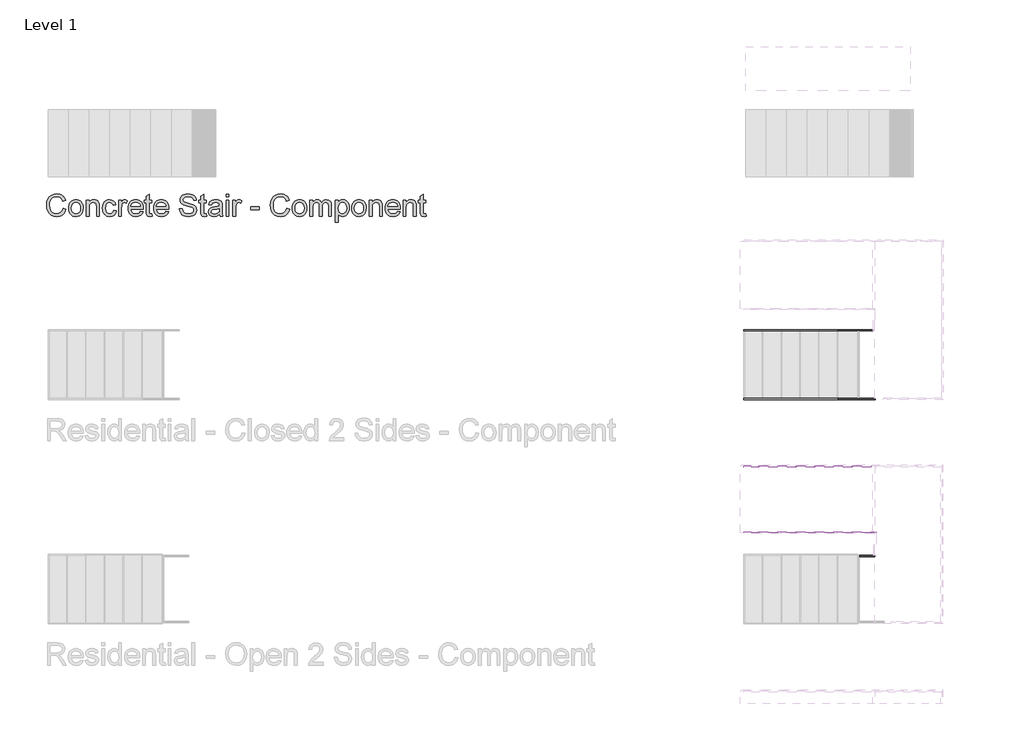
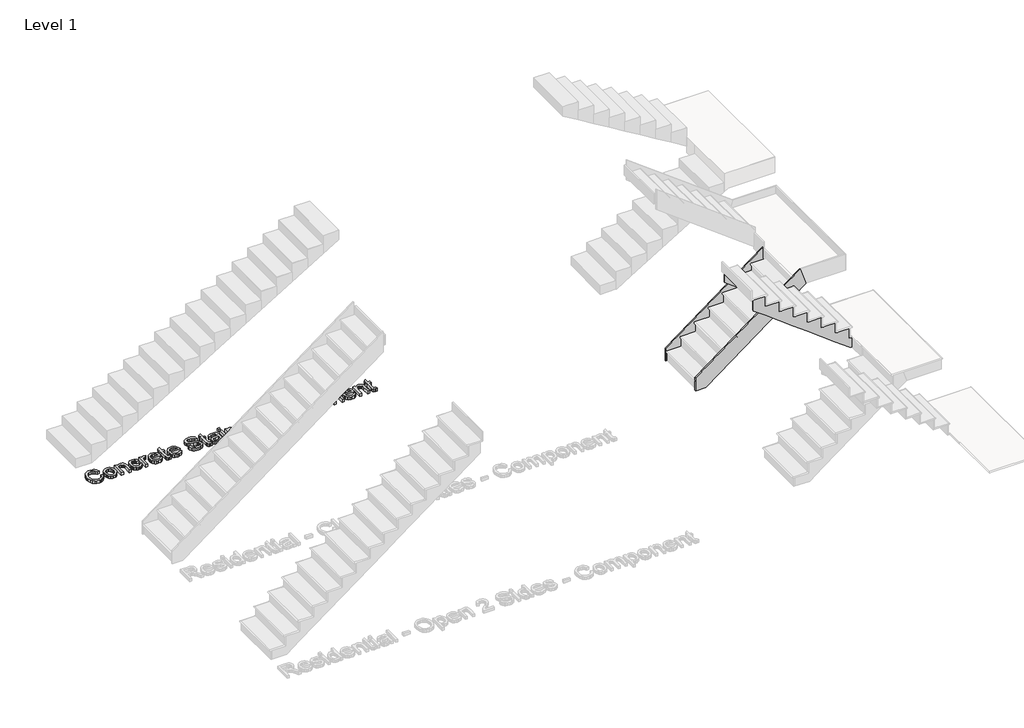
# One storey, part 18 of 26: 5 members, 1 proxy.
"""IFC4 building model written with IfcOpenShell, lengths in millimetres."""

import ifcopenshell
import ifcopenshell.guid

model = None  # the IFC model being written
_history = None  # IfcOwnerHistory: only IFC2X3 demands one
_inside = {}  # id of a spatial element -> (the spatial element, [elements in it])
_under = {}  # id of a project, library or spatial element -> (it, [spatial elements below it])
_declared = {}  # id of a project -> (the project, [libraries it declares])
_typed = {}  # id of a type object -> (the type object, [elements of that type])
_made_of = {}  # id of a material, layer set ... -> (it, [elements and type objects made of it])


def new_model(schema):
    """Start an empty IFC model of exactly this schema.

    Asked for "IFC4X3", IfcOpenShell would pick the latest addendum, in which some entities
    have other attributes; the version numbers below select the first issue.
    IFC2X3 requires an IfcOwnerHistory on every rooted entity: one is made here for all.
    """
    global model, _history
    if schema == "IFC4X3":
        model = ifcopenshell.file(schema_version=(4, 3, 0, 0))
    else:
        model = ifcopenshell.file(schema=schema)
    _inside.clear()
    _under.clear()
    _declared.clear()
    _typed.clear()
    _made_of.clear()
    _history = None
    if model.schema == "IFC2X3":
        org = make("IfcOrganization", Name="unknown")
        user = make(
            "IfcPersonAndOrganization",
            ThePerson=make("IfcPerson", FamilyName="unknown"),
            TheOrganization=org,
        )
        app = make(
            "IfcApplication",
            ApplicationDeveloper=org,
            Version="unknown",
            ApplicationFullName="unknown",
            ApplicationIdentifier="unknown",
        )
        _history = make(
            "IfcOwnerHistory",
            OwningUser=user,
            OwningApplication=app,
            ChangeAction="ADDED",
            CreationDate=0,
        )
    return model


def make(cls, **values):
    """One entity of the class cls with the attributes given. An attribute that is None is left unset."""
    return model.create_entity(
        cls, **{name: value for name, value in values.items() if value is not None}
    )


def rooted(cls, **values):
    """An entity with a GlobalId (a new one), such as an element, a storey or a relation."""
    return make(cls, GlobalId=ifcopenshell.guid.new(), OwnerHistory=_history, **values)


def si_unit(unit_type, name, prefix=None):
    """IfcSIUnit, for example si_unit("LENGTHUNIT", "METRE", prefix="MILLI")."""
    return make("IfcSIUnit", UnitType=unit_type, Prefix=prefix, Name=name)


def assignment(units):
    """IfcUnitAssignment: the units of a project."""
    return None if units is None else make("IfcUnitAssignment", Units=units)


def point(xyz):
    """IfcCartesianPoint."""
    return None if xyz is None else make("IfcCartesianPoint", Coordinates=xyz)


def direction(xyz):
    """IfcDirection."""
    return None if xyz is None else make("IfcDirection", DirectionRatios=xyz)


def frame(location, z_axis=None, x_axis=None):
    """IfcAxis2Placement3D, a coordinate frame: its origin and axes. An axis left out is left unset."""
    return make(
        "IfcAxis2Placement3D",
        Location=point(location),
        Axis=direction(z_axis),
        RefDirection=direction(x_axis),
    )


def origin():
    """The frame at (0, 0, 0) with its axes left unset."""
    return frame((0.0, 0.0, 0.0))


def origin_with_axes():
    """The frame at (0, 0, 0) with the z axis (0, 0, 1) and the x axis (1, 0, 0) written out."""
    return frame((0.0, 0.0, 0.0), z_axis=(0.0, 0.0, 1.0), x_axis=(1.0, 0.0, 0.0))


def place(relative_to, where):
    """IfcLocalPlacement: puts the frame where relative to a parent placement (None: the world)."""
    return make(
        "IfcLocalPlacement", PlacementRelTo=relative_to, RelativePlacement=where
    )


def context(
    kind, dimensions, precision=None, world=None, true_north=None, identifier=None
):
    """IfcGeometricRepresentationContext, for example the 3D "Model" context."""
    return make(
        "IfcGeometricRepresentationContext",
        ContextIdentifier=identifier,
        ContextType=kind,
        CoordinateSpaceDimension=dimensions,
        Precision=precision,
        WorldCoordinateSystem=world,
        TrueNorth=true_north,
    )


def project(units=None, contexts=None):
    """IfcProject with its units and contexts."""
    return rooted(
        "IfcProject",
        Name="project",
        RepresentationContexts=contexts,
        UnitsInContext=assignment(units),
    )


def spatial(cls, under=None, at=None, **own):
    """A site, building, storey or space (cls), placed at a placement, below another one or the project."""
    s = rooted(cls, ObjectPlacement=at, **own)
    if under is not None:
        _under.setdefault(under.id(), (under, []))[1].append(s)
    return s


def polyline(points):
    """IfcPolyline through the points."""
    return make("IfcPolyline", Points=[point(p) for p in points])


def outline(outer, holes=None, kind="AREA"):
    """IfcArbitraryClosedProfileDef: a profile drawn as a closed curve; with holes, ...WithVoids."""
    if holes is None:
        return make("IfcArbitraryClosedProfileDef", ProfileType=kind, OuterCurve=outer)
    return make(
        "IfcArbitraryProfileDefWithVoids",
        ProfileType=kind,
        OuterCurve=outer,
        InnerCurves=holes,
    )


def extrude(swept, where, along, depth):
    """IfcExtrudedAreaSolid: the profile swept, set in the frame where, extruded along a direction by depth."""
    return make(
        "IfcExtrudedAreaSolid",
        SweptArea=swept,
        Position=where,
        ExtrudedDirection=direction(along),
        Depth=depth,
    )


def faces_of(points, faces, orient=None, outer=None):
    """IfcFace entities. A face is a list of loops; a loop is a list of indices into points, from 0.

    orient and outer hold one flag for each loop. By default every Orientation is true, the
    first loop of a face is its IfcFaceOuterBound and the others are IfcFaceBound.
    """
    made = []
    for i, loops in enumerate(faces):
        bounds = []
        for j, loop in enumerate(loops):
            is_outer = j == 0 if outer is None else outer[i][j]
            bounds.append(
                make(
                    "IfcFaceOuterBound" if is_outer else "IfcFaceBound",
                    Bound=make("IfcPolyLoop", Polygon=[points[k] for k in loop]),
                    Orientation=True if orient is None else orient[i][j],
                )
            )
        made.append(make("IfcFace", Bounds=bounds))
    return made


def faceted_brep(points, faces, orient=None, outer=None, voids=None):
    """IfcFacetedBrep: a solid bounded by flat faces; with voids (closed shells), ...WithVoids."""
    shared = [point(p) for p in points]
    hull = make("IfcClosedShell", CfsFaces=faces_of(shared, faces, orient, outer))
    if voids is None:
        return make("IfcFacetedBrep", Outer=hull)
    return make(
        "IfcFacetedBrepWithVoids",
        Outer=hull,
        Voids=[
            make(cls, CfsFaces=faces_of(shared, fs, o, b)) for cls, fs, o, b in voids
        ],
    )


def shape(context_of_items, identifier, shape_type, items):
    """IfcShapeRepresentation: the items that make up one representation, for example the "Body"."""
    return make(
        "IfcShapeRepresentation",
        ContextOfItems=context_of_items,
        RepresentationIdentifier=identifier,
        RepresentationType=shape_type,
        Items=items,
    )


def made_of(thing, what):
    """Note that an element or type object is made of a material, layer set ...; save() writes the relation."""
    if what is not None:
        _made_of.setdefault(what.id(), (what, []))[1].append(thing)
    return thing


def element(
    cls,
    number,
    at=None,
    inside=None,
    cuts=None,
    type_object=None,
    material=None,
    context=None,
    identifier="Body",
    shape_type=None,
    held_by="IfcProductDefinitionShape",
    body=None,
    shapes=None,
    **own,
):
    """One element of the class cls, such as IfcWall. Its Tag is "e" and its number.

    at: its placement. inside: the storey or other place that contains it. cuts: it is an
    opening in that element (IfcRelVoidsElement). A single representation is given by context,
    identifier, shape_type and body (its items); several are given by shapes. held_by: the class
    of the entity that holds the representations. save() writes the other relations.
    """
    e = rooted(cls, Tag="e%d" % number, ObjectPlacement=at, **own)
    if body is not None:
        shapes = [shape(context, identifier, shape_type, body)]
    if shapes is not None:
        e.Representation = make(held_by, Representations=shapes)
    if inside is not None:
        _inside.setdefault(inside.id(), (inside, []))[1].append(e)
    if cuts is not None:
        rooted(
            "IfcRelVoidsElement", RelatingBuildingElement=cuts, RelatedOpeningElement=e
        )
    if type_object is not None:
        _typed.setdefault(type_object.id(), (type_object, []))[1].append(e)
    return made_of(e, material)


def aggregate(whole, parts):
    """IfcRelAggregates: a whole, such as a stair, and the parts it consists of."""
    return rooted("IfcRelAggregates", RelatingObject=whole, RelatedObjects=parts)


def save(model, path):
    """Write the relations noted so far, then the file.

    IfcRelAggregates (storeys below a building ...), IfcRelContainedInSpatialStructure (elements
    in a storey), IfcRelDefinesByType, IfcRelAssociatesMaterial and IfcRelDeclares: one each for
    every whole, place, type object, material and project.
    """
    for whole, parts in _under.values():
        aggregate(whole, parts)
    for where, things in _inside.values():
        rooted(
            "IfcRelContainedInSpatialStructure",
            RelatedElements=things,
            RelatingStructure=where,
        )
    for kind, things in _typed.values():
        rooted("IfcRelDefinesByType", RelatedObjects=things, RelatingType=kind)
    for what, things in _made_of.values():
        rooted("IfcRelAssociatesMaterial", RelatedObjects=things, RelatingMaterial=what)
    for by, libraries in _declared.values():
        rooted("IfcRelDeclares", RelatingContext=by, RelatedDefinitions=libraries)
    model.write(path)


model = new_model("IFC4")

# Units and contexts
model_context = context("Model", 3, world=origin())
ifc_project = project(units=[si_unit("LENGTHUNIT", "METRE", prefix="MILLI")], contexts=[model_context])

# Site, building, storey
site = spatial("IfcSite", under=ifc_project)
building = spatial("IfcBuilding", under=site)
storey = spatial("IfcBuildingStorey", under=building, Name="Level 1", Elevation=0.0)

# Proxy
placement = place(None, origin())
element("IfcBuildingElementProxy", 1, Name="12\" Arial", ObjectType="12\" Arial", at=placement, inside=storey, context=model_context, shape_type="SweptSolid", body=[
    extrude(outline(polyline([(-27027.2947894, 9583.5567877), (-26989.7809433, 9573.8852493), (-26997.2040322, 9550.5558683), (-27007.090799, 9530.1709945), (-27019.4412438, 9512.7306279), (-27034.2553664, 9498.2347685), (-27051.198876, 9486.8391134), (-27069.9374817, 9478.6993598), (-27090.4711837, 9473.8155077), (-27112.7999817, 9472.187557), (-27156.3127462, 9477.1149127), (-27190.8683471, 9491.89698), (-27217.355174, 9516.0208743), (-27236.6616164, 9548.9737108), (-27248.4488039, 9587.7148166), (-27252.3778664, 9629.2035185), (-27247.9359192, 9672.9635666), (-27234.6100779, 9710.7521723), (-27213.0964, 9741.3695521), (-27184.0909433, 9763.6159223), (-27149.6910394, 9777.1615714), (-27111.9940202, 9781.6767877), (-27070.8625058, 9775.8335666), (-27052.9687858, 9768.5295401), (-27036.856424, 9758.3039031), (-27022.7910214, 9745.4268358), (-27011.0381789, 9730.1685185), (-26994.470174, 9692.5081339), (-27031.9840202, 9683.5692877), (-27044.9893087, 9710.9261868), (-27062.7570971, 9729.6922685), (-27085.5071933, 9740.5452733), (-27113.4594048, 9744.1629416), (-27145.679549, 9740.1514512), (-27172.1480587, 9728.11698), (-27192.2329865, 9709.3234223), (-27205.3023856, 9685.0346723), (-27212.4736115, 9657.5770281), (-27214.8640202, 9629.2767877), (-27212.0339962, 9594.6204416), (-27203.543924, 9564.6533262), (-27189.073251, 9540.5202733), (-27168.301424, 9523.3661146), (-27143.3990442, 9513.117581), (-27116.5367125, 9509.7014031), (-27085.223275, 9514.3539993), (-27059.1302702, 9528.3117877), (-27039.4300058, 9551.42823), (-27027.2947894, 9583.5567877)])), origin_with_axes(), (0.0, 0.0, 1.0), 50.8),
    extrude(outline(polyline([(-26952.2670971, 9587.0737108), (-26950.2384553, 9615.6166555), (-26944.1525298, 9640.2122204), (-26934.0093207, 9660.8604055), (-26919.8088279, 9677.5612108), (-26905.5121692, 9688.2356219), (-26889.7318087, 9695.8602012), (-26872.4677462, 9700.4349488), (-26853.7199817, 9701.9598646), (-26833.0237137, 9700.1029476), (-26814.3102942, 9694.5321964), (-26797.5797233, 9685.247611), (-26782.832001, 9672.2491916), (-26770.7952402, 9655.9765534), (-26762.1975539, 9636.8693118), (-26757.0389421, 9614.9274668), (-26755.3194048, 9590.1510185), (-26758.3600779, 9552.2525089), (-26767.4820971, 9523.4027493), (-26782.4198615, 9501.7974848), (-26802.9077702, 9485.6324608), (-26827.2423135, 9475.5487829), (-26853.7199817, 9472.187557), (-26874.7184853, 9474.037605), (-26893.6059192, 9479.5877493), (-26910.3822834, 9488.8379896), (-26925.0475779, 9501.7883262), (-26936.9561176, 9518.2189512), (-26945.4622173, 9537.910057), (-26950.5658772, 9560.8616435), (-26952.2670971, 9587.0737108)]), holes=[polyline([(-26914.753251, 9587.14698), (-26910.412049, 9553.1958502), (-26897.3884433, 9529.0078454), (-26877.788924, 9514.5280137), (-26853.7199817, 9509.7014031), (-26829.7609433, 9514.5554896), (-26810.1980587, 9529.1177493), (-26797.1744529, 9553.626307), (-26792.833251, 9588.3192877), (-26797.2019289, 9621.2812829), (-26810.3079625, 9645.1395762), (-26829.8983231, 9659.6194079), (-26853.7199817, 9664.4460185), (-26877.788924, 9659.6377252), (-26897.3884433, 9645.2128454), (-26910.412049, 9621.0797925), (-26914.753251, 9587.14698)])]), origin_with_axes(), (0.0, 0.0, 1.0), 50.8),
    extrude(outline(polyline([(-26713.1163279, 9476.8767877), (-26713.1163279, 9697.2706339), (-26675.6024817, 9697.2706339), (-26675.6024817, 9666.497557), (-26662.5697173, 9682.0123166), (-26646.9175779, 9693.0942877), (-26628.6460635, 9699.7434704), (-26607.755174, 9701.9598646), (-26589.2638519, 9700.1739271), (-26572.329501, 9694.8161146), (-26558.2068567, 9686.5550089), (-26548.1506548, 9676.0591916), (-26536.9038279, 9648.4733262), (-26534.9255587, 9612.205057), (-26534.9255587, 9476.8767877), (-26572.4394048, 9476.8767877), (-26572.4394048, 9607.14948), (-26576.7622894, 9640.3404416), (-26582.7428904, 9650.2226291), (-26592.038924, 9657.8884223), (-26603.9543327, 9662.8066195), (-26617.7930587, 9664.4460185), (-26639.7646692, 9660.7642396), (-26658.4941164, 9649.7189031), (-26665.9790262, 9640.7022084), (-26671.3253904, 9628.3792396), (-26675.6024817, 9593.81448), (-26675.6024817, 9476.8767877), (-26713.1163279, 9476.8767877)])), origin_with_axes(), (0.0, 0.0, 1.0), 50.8),
    extrude(outline(polyline([(-26342.6670971, 9556.5937108), (-26305.153251, 9551.90448), (-26315.6124337, 9518.5395041), (-26335.2669048, 9493.32573), (-26362.2666164, 9477.4721002), (-26394.7615202, 9472.187557), (-26415.8012378, 9474.030736), (-26434.665775, 9479.5602733), (-26451.355132, 9488.7761687), (-26465.8693087, 9501.6784223), (-26477.6175719, 9518.0243298), (-26486.0091885, 9537.5711868), (-26491.0441584, 9560.3189933), (-26492.7224817, 9586.2677493), (-26489.8558231, 9619.6510425), (-26481.2558471, 9648.58323), (-26466.785174, 9671.946956), (-26446.306424, 9688.6248646), (-26421.807025, 9698.6261146), (-26395.2744048, 9701.9598646), (-26363.5763039, 9697.3805377), (-26338.2343087, 9683.642557), (-26320.0543808, 9661.4786146), (-26309.8424817, 9631.6214031), (-26347.3563279, 9626.9321723), (-26354.1612077, 9643.2986868), (-26364.7577702, 9655.0309223), (-26378.5598615, 9662.0922445), (-26394.9813279, 9664.4460185), (-26419.2242846, 9659.8117396), (-26438.4666164, 9645.9089031), (-26451.0231308, 9621.9864993), (-26455.2086356, 9587.2935185), (-26451.1147173, 9552.1334464), (-26438.8329625, 9528.1286146), (-26419.9386596, 9514.308206), (-26396.0070971, 9509.7014031), (-26376.5815923, 9512.5772204), (-26360.6546933, 9521.2046723), (-26349.0689962, 9535.8035666), (-26342.6670971, 9556.5937108)])), origin_with_axes(), (0.0, 0.0, 1.0), 50.8),
    extrude(outline(polyline([(-26272.3286356, 9476.8767877), (-26272.3286356, 9697.2706339), (-26239.5040202, 9697.2706339), (-26239.5040202, 9664.6658262), (-26227.3779625, 9683.5692877), (-26216.2044048, 9694.7062108), (-26204.9942125, 9700.1464512), (-26192.758251, 9701.9598646), (-26174.0745971, 9699.06573), (-26155.0978664, 9690.3833262), (-26167.6269048, 9656.7527493), (-26180.8153664, 9662.5227012), (-26194.0038279, 9664.4460185), (-26205.2048615, 9662.5959704), (-26215.2152702, 9657.0458262), (-26223.3023615, 9648.2168839), (-26228.7334433, 9636.5304416), (-26233.2944529, 9615.5754416), (-26234.8147894, 9592.7154416), (-26234.8147894, 9476.8767877), (-26272.3286356, 9476.8767877)])), origin_with_axes(), (0.0, 0.0, 1.0), 50.8),
    extrude(outline(polyline([(-25977.3467125, 9542.5260185), (-25940.5655587, 9537.8367877), (-25953.8181308, 9510.1227012), (-25974.9654625, 9489.4058262), (-26003.5313039, 9476.4921243), (-26039.0394048, 9472.187557), (-26062.3161236, 9474.044474), (-26083.0558952, 9479.6152252), (-26101.2587197, 9488.8998106), (-26116.9245971, 9501.89823), (-26129.5223255, 9518.2487168), (-26138.5207029, 9537.5895041), (-26143.9197293, 9559.9205918), (-26145.7194048, 9585.24198), (-26143.901412, 9611.4219921), (-26138.4474337, 9634.4972204), (-26129.3574697, 9654.4676651), (-26116.6315202, 9671.3333262), (-26101.0068567, 9684.7324368), (-26083.220751, 9694.30323), (-26063.2732029, 9700.045706), (-26041.1642125, 9701.9598646), (-26019.7673075, 9700.0502853), (-26000.4173615, 9694.3215473), (-25983.1143748, 9684.7736507), (-25967.8583471, 9671.4065954), (-25955.4048676, 9654.577569), (-25946.509525, 9634.6437589), (-25941.1723195, 9611.6051651), (-25939.393251, 9585.4617877), (-25939.6130587, 9575.3506339), (-26108.2055587, 9575.3506339), (-26101.7120731, 9547.2702012), (-26086.6277702, 9526.6265954), (-26064.85765, 9513.9327012), (-26038.3067125, 9509.7014031), (-26018.3408471, 9511.661355), (-26001.5255587, 9517.5412108), (-25987.8608471, 9527.7073166), (-25977.3467125, 9542.5260185)]), holes=[polyline([(-26108.2055587, 9612.86448), (-25976.9070971, 9612.86448), (-25981.9809914, 9632.683807), (-25991.9272894, 9646.8614031), (-26013.7981548, 9660.0498646), (-26041.310751, 9664.4460185), (-26066.5977942, 9660.9382541), (-26087.507001, 9650.4149608), (-26102.0417846, 9634.0118118), (-26108.2055587, 9612.86448)])]), origin_with_axes(), (0.0, 0.0, 1.0), 50.8),
    extrude(outline(polyline([(-25822.1624817, 9508.1627493), (-25817.473251, 9475.7777493), (-25845.5353664, 9472.187557), (-25863.5412798, 9473.7445281), (-25876.9678664, 9478.4154416), (-25886.4562317, 9485.6141435), (-25892.6474817, 9494.75448), (-25896.054501, 9510.4524127), (-25897.190174, 9537.3239031), (-25897.190174, 9659.7567877), (-25925.3255587, 9659.7567877), (-25925.3255587, 9697.2706339), (-25897.190174, 9697.2706339), (-25897.190174, 9750.8304416), (-25859.6763279, 9772.88448), (-25859.6763279, 9697.2706339), (-25822.1624817, 9697.2706339), (-25822.1624817, 9659.7567877), (-25859.6763279, 9659.7567877), (-25859.6763279, 9538.4229416), (-25857.6980587, 9519.0798646), (-25851.287001, 9512.2291916), (-25838.5015202, 9509.7014031), (-25822.1624817, 9508.1627493)])), origin_with_axes(), (0.0, 0.0, 1.0), 50.8),
    extrude(outline(polyline([(-25630.3436356, 9542.5260185), (-25593.5624817, 9537.8367877), (-25606.8150539, 9510.1227012), (-25627.9623856, 9489.4058262), (-25656.5282269, 9476.4921243), (-25692.0363279, 9472.187557), (-25715.3130466, 9474.044474), (-25736.0528183, 9479.6152252), (-25754.2556428, 9488.8998106), (-25769.9215202, 9501.89823), (-25782.5192486, 9518.2487168), (-25791.517626, 9537.5895041), (-25796.9166524, 9559.9205918), (-25798.7163279, 9585.24198), (-25796.8983351, 9611.4219921), (-25791.4443567, 9634.4972204), (-25782.3543928, 9654.4676651), (-25769.6284433, 9671.3333262), (-25754.0037798, 9684.7324368), (-25736.217674, 9694.30323), (-25716.270126, 9700.045706), (-25694.1611356, 9701.9598646), (-25672.7642305, 9700.0502853), (-25653.4142846, 9694.3215473), (-25636.1112978, 9684.7736507), (-25620.8552702, 9671.4065954), (-25608.4017906, 9654.577569), (-25599.5064481, 9634.6437589), (-25594.1692426, 9611.6051651), (-25592.390174, 9585.4617877), (-25592.6099817, 9575.3506339), (-25761.2024817, 9575.3506339), (-25754.7089962, 9547.2702012), (-25739.6246933, 9526.6265954), (-25717.8545731, 9513.9327012), (-25691.3036356, 9509.7014031), (-25671.3377702, 9511.661355), (-25654.5224817, 9517.5412108), (-25640.8577702, 9527.7073166), (-25630.3436356, 9542.5260185)]), holes=[polyline([(-25761.2024817, 9612.86448), (-25629.9040202, 9612.86448), (-25634.9779144, 9632.683807), (-25644.9242125, 9646.8614031), (-25666.7950779, 9660.0498646), (-25694.307674, 9664.4460185), (-25719.5947173, 9660.9382541), (-25740.503924, 9650.4149608), (-25755.0387077, 9634.0118118), (-25761.2024817, 9612.86448)])]), origin_with_axes(), (0.0, 0.0, 1.0), 50.8),
    extrude(outline(polyline([(-25447.0240202, 9580.0398646), (-25409.510174, 9580.0398646), (-25405.2056067, 9559.2222445), (-25397.420751, 9542.4893839), (-25385.276376, 9529.2093358), (-25367.893251, 9518.7501531), (-25346.645174, 9511.9635906), (-25322.9059433, 9509.7014031), (-25302.0058952, 9511.4140714), (-25283.7069048, 9516.5520762), (-25268.8790442, 9524.6849608), (-25258.3923856, 9535.3822685), (-25252.1553423, 9547.6640233), (-25250.0763279, 9560.5502493), (-25251.633299, 9573.1067637), (-25256.3042125, 9583.9597685), (-25265.7925779, 9593.2191675), (-25281.8019048, 9600.9948646), (-25336.4241164, 9615.3189993), (-25372.2802462, 9624.798206), (-25395.222674, 9633.81948), (-25413.8971692, 9646.440105), (-25427.131424, 9661.735057), (-25435.017025, 9679.3746243), (-25437.6455587, 9699.0290954), (-25434.3942365, 9721.000706), (-25424.6402702, 9741.4886146), (-25408.6401019, 9758.8534223), (-25386.650174, 9771.45573), (-25360.2549337, 9779.1215233), (-25331.0388279, 9781.6767877), (-25299.3865202, 9779.0024608), (-25271.690751, 9770.97948), (-25248.9406548, 9757.7727012), (-25232.1253664, 9739.54698), (-25221.4830106, 9717.4379896), (-25217.2517125, 9692.5814031), (-25254.7655587, 9692.5814031), (-25261.6528664, 9714.9651531), (-25276.0136356, 9731.1210185), (-25298.4523375, 9740.9024608), (-25329.5734433, 9744.1629416), (-25361.4272414, 9740.9390954), (-25383.2797894, 9731.267557), (-25395.9187317, 9717.0350089), (-25400.1317125, 9700.1281339), (-25397.1459914, 9685.7124127), (-25388.1888279, 9674.117557), (-25367.0140202, 9663.7499608), (-25326.935751, 9653.162557), (-25285.5752702, 9643.106355), (-25260.5538279, 9634.3323646), (-25239.1683712, 9620.722605), (-25224.248924, 9603.9256339), (-25215.4840923, 9584.1246243), (-25212.5624817, 9561.5027493), (-25215.9237077, 9538.3771483), (-25226.0073856, 9516.6253454), (-25242.401376, 9497.905057), (-25264.6935394, 9483.8739993), (-25291.5009192, 9475.1091675), (-25321.4405587, 9472.187557), (-25358.1942365, 9475.3381339), (-25388.4452702, 9484.7898646), (-25412.5416885, 9500.5793839), (-25430.8315202, 9522.7433262), (-25442.5729144, 9549.7430377), (-25447.0240202, 9580.0398646)])), origin_with_axes(), (0.0, 0.0, 1.0), 50.8),
    extrude(outline(polyline([(-25081.2640202, 9508.1627493), (-25076.5747894, 9475.7777493), (-25104.6369048, 9472.187557), (-25122.6428183, 9473.7445281), (-25136.0694048, 9478.4154416), (-25145.5577702, 9485.6141435), (-25151.7490202, 9494.75448), (-25155.1560394, 9510.4524127), (-25156.2917125, 9537.3239031), (-25156.2917125, 9659.7567877), (-25184.4270971, 9659.7567877), (-25184.4270971, 9697.2706339), (-25156.2917125, 9697.2706339), (-25156.2917125, 9750.8304416), (-25118.7778664, 9772.88448), (-25118.7778664, 9697.2706339), (-25081.2640202, 9697.2706339), (-25081.2640202, 9659.7567877), (-25118.7778664, 9659.7567877), (-25118.7778664, 9538.4229416), (-25116.7995971, 9519.0798646), (-25110.3885394, 9512.2291916), (-25097.6030587, 9509.7014031), (-25081.2640202, 9508.1627493)])), origin_with_axes(), (0.0, 0.0, 1.0), 50.8),
    extrude(outline(polyline([(-24903.073251, 9505.0121723), (-24920.9967365, 9489.6439512), (-24939.451424, 9479.5877493), (-24958.8586115, 9474.037605), (-24979.6395971, 9472.187557), (-25010.9896692, 9476.6386627), (-25034.1152702, 9489.99198), (-25048.3752942, 9510.2692396), (-25053.1286356, 9535.4921723), (-25051.3335394, 9551.0435666), (-25045.948251, 9565.1662108), (-25037.6413519, 9577.2556339), (-25027.081424, 9586.7073646), (-25000.8144048, 9599.0165954), (-24968.3561356, 9604.6583262), (-24929.9996933, 9610.5931339), (-24903.2930587, 9617.5537108), (-24903.073251, 9625.9064031), (-24905.6559914, 9642.6484223), (-24913.4042125, 9653.6021723), (-24930.7323856, 9661.735057), (-24954.8745971, 9664.4460185), (-24977.2217125, 9662.6417637), (-24992.8280587, 9657.2289993), (-25003.4704144, 9647.2185906), (-25010.9255587, 9631.6214031), (-25048.4394048, 9636.3106339), (-25041.9276019, 9656.8260185), (-25032.2102702, 9672.9452493), (-25018.3807029, 9685.2727973), (-24999.5321933, 9694.4131339), (-24976.4798615, 9700.073182), (-24950.0388279, 9701.9598646), (-24924.6785154, 9700.2929896), (-24904.5752702, 9695.2923646), (-24889.4176981, 9687.7731098), (-24878.8944048, 9678.5503454), (-24871.9155106, 9667.1478214), (-24867.3911356, 9653.0892877), (-24865.5594048, 9620.2646723), (-24865.5594048, 9573.5921723), (-24863.6544048, 9508.4191916), (-24856.1809433, 9476.8767877), (-24893.6947894, 9476.8767877), (-24903.073251, 9505.0121723)]), holes=[polyline([(-24903.073251, 9580.0398646), (-24963.5936356, 9568.5365954), (-24995.8687317, 9562.4552493), (-25010.4859433, 9552.5639031), (-25015.6147894, 9538.1298646), (-25012.8214, 9526.9746243), (-25004.4412317, 9517.8342877), (-24990.6574577, 9511.7346243), (-24971.653251, 9509.7014031), (-24951.5042125, 9511.9452733), (-24933.6997894, 9518.6768839), (-24919.265751, 9528.595706), (-24909.2278664, 9540.4012108), (-24904.7767606, 9552.5639031), (-24903.2930587, 9569.4158262), (-24903.073251, 9580.0398646)])]), origin_with_axes(), (0.0, 0.0, 1.0), 50.8),
    extrude(outline(polyline([(-24813.9778664, 9476.8767877), (-24813.9778664, 9697.2706339), (-24776.4640202, 9697.2706339), (-24776.4640202, 9476.8767877), (-24813.9778664, 9476.8767877)])), origin_with_axes(), (0.0, 0.0, 1.0), 50.8),
    extrude(outline(polyline([(-24813.9778664, 9739.4737108), (-24813.9778664, 9776.987557), (-24776.4640202, 9776.987557), (-24776.4640202, 9739.4737108), (-24813.9778664, 9739.4737108)])), origin_with_axes(), (0.0, 0.0, 1.0), 50.8),
    extrude(outline(polyline([(-24720.193251, 9476.8767877), (-24720.193251, 9697.2706339), (-24687.3686356, 9697.2706339), (-24687.3686356, 9664.6658262), (-24675.2425779, 9683.5692877), (-24664.0690202, 9694.7062108), (-24652.8588279, 9700.1464512), (-24640.6228664, 9701.9598646), (-24621.9392125, 9699.06573), (-24602.9624817, 9690.3833262), (-24615.4915202, 9656.7527493), (-24628.6799817, 9662.5227012), (-24641.8684433, 9664.4460185), (-24653.0694769, 9662.5959704), (-24663.0798856, 9657.0458262), (-24671.1669769, 9648.2168839), (-24676.5980587, 9636.5304416), (-24681.1590683, 9615.5754416), (-24682.6794048, 9592.7154416), (-24682.6794048, 9476.8767877), (-24720.193251, 9476.8767877)])), origin_with_axes(), (0.0, 0.0, 1.0), 50.8),
    extrude(outline(polyline([(-24481.0424817, 9565.9721723), (-24481.0424817, 9603.4860185), (-24363.8117125, 9603.4860185), (-24363.8117125, 9565.9721723), (-24481.0424817, 9565.9721723)])), origin_with_axes(), (0.0, 0.0, 1.0), 50.8),
    extrude(outline(polyline([(-23988.673251, 9583.5567877), (-23951.1594048, 9573.8852493), (-23958.5824938, 9550.5558683), (-23968.4692606, 9530.1709945), (-23980.8197053, 9512.7306279), (-23995.6338279, 9498.2347685), (-24012.5773375, 9486.8391134), (-24031.3159433, 9478.6993598), (-24051.8496452, 9473.8155077), (-24074.1784433, 9472.187557), (-24117.6912077, 9477.1149127), (-24152.2468087, 9491.89698), (-24178.7336356, 9516.0208743), (-24198.0400779, 9548.9737108), (-24209.8272654, 9587.7148166), (-24213.7563279, 9629.2035185), (-24209.3143808, 9672.9635666), (-24195.9885394, 9710.7521723), (-24174.4748615, 9741.3695521), (-24145.4694048, 9763.6159223), (-24111.069501, 9777.1615714), (-24073.3724817, 9781.6767877), (-24032.2409673, 9775.8335666), (-24014.3472474, 9768.5295401), (-23998.2348856, 9758.3039031), (-23984.1694829, 9745.4268358), (-23972.4166404, 9730.1685185), (-23955.8486356, 9692.5081339), (-23993.3624817, 9683.5692877), (-24006.3677702, 9710.9261868), (-24024.1355587, 9729.6922685), (-24046.8856548, 9740.5452733), (-24074.8378664, 9744.1629416), (-24107.0580106, 9740.1514512), (-24133.5265202, 9728.11698), (-24153.6114481, 9709.3234223), (-24166.6808471, 9685.0346723), (-24173.8520731, 9657.5770281), (-24176.2424817, 9629.2767877), (-24173.4124577, 9594.6204416), (-24164.9223856, 9564.6533262), (-24150.4517125, 9540.5202733), (-24129.6798856, 9523.3661146), (-24104.7775058, 9513.117581), (-24077.915174, 9509.7014031), (-24046.6017365, 9514.3539993), (-24020.5087317, 9528.3117877), (-24000.8084673, 9551.42823), (-23988.673251, 9583.5567877)])), origin_with_axes(), (0.0, 0.0, 1.0), 50.8),
    extrude(outline(polyline([(-23913.6455587, 9587.0737108), (-23911.6169168, 9615.6166555), (-23905.5309914, 9640.2122204), (-23895.3877822, 9660.8604055), (-23881.1872894, 9677.5612108), (-23866.8906308, 9688.2356219), (-23851.1102702, 9695.8602012), (-23833.8462077, 9700.4349488), (-23815.0984433, 9701.9598646), (-23794.4021753, 9700.1029476), (-23775.6887558, 9694.5321964), (-23758.9581849, 9685.247611), (-23744.2104625, 9672.2491916), (-23732.1737017, 9655.9765534), (-23723.5760154, 9636.8693118), (-23718.4174036, 9614.9274668), (-23716.6978664, 9590.1510185), (-23719.7385394, 9552.2525089), (-23728.8605587, 9523.4027493), (-23743.7983231, 9501.7974848), (-23764.2862317, 9485.6324608), (-23788.620775, 9475.5487829), (-23815.0984433, 9472.187557), (-23836.0969469, 9474.037605), (-23854.9843808, 9479.5877493), (-23871.760745, 9488.8379896), (-23886.4260394, 9501.7883262), (-23898.3345791, 9518.2189512), (-23906.8406789, 9537.910057), (-23911.9443387, 9560.8616435), (-23913.6455587, 9587.0737108)]), holes=[polyline([(-23876.1317125, 9587.14698), (-23871.7905106, 9553.1958502), (-23858.7669048, 9529.0078454), (-23839.1673856, 9514.5280137), (-23815.0984433, 9509.7014031), (-23791.1394048, 9514.5554896), (-23771.5765202, 9529.1177493), (-23758.5529144, 9553.626307), (-23754.2117125, 9588.3192877), (-23758.5803904, 9621.2812829), (-23771.686424, 9645.1395762), (-23791.2767846, 9659.6194079), (-23815.0984433, 9664.4460185), (-23839.1673856, 9659.6377252), (-23858.7669048, 9645.2128454), (-23871.7905106, 9621.0797925), (-23876.1317125, 9587.14698)])]), origin_with_axes(), (0.0, 0.0, 1.0), 50.8),
    extrude(outline(polyline([(-23674.4947894, 9476.8767877), (-23674.4947894, 9697.2706339), (-23636.9809433, 9697.2706339), (-23636.9809433, 9661.0023646), (-23625.6974817, 9677.661956), (-23611.190174, 9690.7130377), (-23593.9535875, 9699.1481579), (-23574.4822894, 9701.9598646), (-23553.618876, 9699.093206), (-23536.895174, 9690.49323), (-23524.4027702, 9676.7277733), (-23516.233251, 9658.3646723), (-23502.5593808, 9677.437569), (-23486.9621933, 9691.0610666), (-23469.4416885, 9699.2351651), (-23449.9978664, 9701.9598646), (-23421.7983712, 9697.426331), (-23400.9441164, 9683.82573), (-23388.0578904, 9660.7917156), (-23383.7624817, 9627.9579416), (-23383.7624817, 9476.8767877), (-23421.2763279, 9476.8767877), (-23421.2763279, 9611.8387108), (-23424.7566164, 9643.161307), (-23429.6473375, 9651.7979175), (-23437.358924, 9658.58448), (-23447.2777462, 9662.9806339), (-23458.790174, 9664.4460185), (-23479.1132269, 9660.6909704), (-23495.6812317, 9649.4258262), (-23506.6990923, 9629.8812589), (-23510.3717125, 9601.2879416), (-23510.3717125, 9476.8767877), (-23547.8855587, 9476.8767877), (-23547.8855587, 9616.015057), (-23550.0561596, 9637.2264993), (-23556.5679625, 9652.3565954), (-23568.0254385, 9661.4236627), (-23585.0330587, 9664.4460185), (-23599.4854144, 9662.4311146), (-23612.8020971, 9656.3864031), (-23623.7924817, 9646.4584223), (-23631.2659433, 9632.7937108), (-23635.5521933, 9613.8352973), (-23636.9809433, 9588.0262108), (-23636.9809433, 9476.8767877), (-23674.4947894, 9476.8767877)])), origin_with_axes(), (0.0, 0.0, 1.0), 50.8),
    extrude(outline(polyline([(-23327.4917125, 9392.4706339), (-23327.4917125, 9697.2706339), (-23289.9778664, 9697.2706339), (-23289.9778664, 9660.48948), (-23277.7419048, 9678.6327733), (-23264.0405587, 9691.5922685), (-23248.0678664, 9699.3679656), (-23229.0178664, 9701.9598646), (-23203.6483952, 9698.3330377), (-23181.4661356, 9687.452557), (-23163.4052702, 9669.9778454), (-23150.3999817, 9646.5683262), (-23142.5418567, 9618.9275089), (-23139.9224817, 9588.7589031), (-23142.8807269, 9556.6761387), (-23151.7554625, 9527.9820762), (-23166.2627702, 9504.1329416), (-23186.1187317, 9486.5849608), (-23209.2443327, 9475.7869079), (-23233.5605587, 9472.187557), (-23250.8063039, 9474.5962829), (-23266.202001, 9481.8224608), (-23279.3813039, 9492.7304175), (-23289.9778664, 9506.18448), (-23289.9778664, 9392.4706339), (-23327.4917125, 9392.4706339)]), holes=[polyline([(-23289.9778664, 9585.3152493), (-23285.9205827, 9551.6846723), (-23273.7487317, 9528.1652493), (-23255.7886115, 9514.3173646), (-23234.3665202, 9509.7014031), (-23212.5964, 9514.4822204), (-23194.1783471, 9528.8246723), (-23181.6218327, 9553.2050089), (-23177.4363279, 9588.09948), (-23181.5210875, 9621.5468839), (-23193.7753664, 9645.3960185), (-23211.7080106, 9659.6835185), (-23232.8278664, 9664.4460185), (-23254.03015, 9659.3812829), (-23272.6496933, 9644.1870762), (-23285.6458231, 9619.3396483), (-23289.9778664, 9585.3152493)])]), origin_with_axes(), (0.0, 0.0, 1.0), 50.8),
    extrude(outline(polyline([(-23107.0978664, 9587.0737108), (-23105.0692245, 9615.6166555), (-23098.983299, 9640.2122204), (-23088.8400899, 9660.8604055), (-23074.6395971, 9677.5612108), (-23060.3429385, 9688.2356219), (-23044.5625779, 9695.8602012), (-23027.2985154, 9700.4349488), (-23008.550751, 9701.9598646), (-22987.8544829, 9700.1029476), (-22969.1410635, 9694.5321964), (-22952.4104926, 9685.247611), (-22937.6627702, 9672.2491916), (-22925.6260094, 9655.9765534), (-22917.0283231, 9636.8693118), (-22911.8697113, 9614.9274668), (-22910.150174, 9590.1510185), (-22913.1908471, 9552.2525089), (-22922.3128664, 9523.4027493), (-22937.2506308, 9501.7974848), (-22957.7385394, 9485.6324608), (-22982.0730827, 9475.5487829), (-23008.550751, 9472.187557), (-23029.5492546, 9474.037605), (-23048.4366885, 9479.5877493), (-23065.2130527, 9488.8379896), (-23079.8783471, 9501.7883262), (-23091.7868868, 9518.2189512), (-23100.2929865, 9537.910057), (-23105.3966464, 9560.8616435), (-23107.0978664, 9587.0737108)]), holes=[polyline([(-23069.5840202, 9587.14698), (-23065.2428183, 9553.1958502), (-23052.2192125, 9529.0078454), (-23032.6196933, 9514.5280137), (-23008.550751, 9509.7014031), (-22984.5917125, 9514.5554896), (-22965.0288279, 9529.1177493), (-22952.0052221, 9553.626307), (-22947.6640202, 9588.3192877), (-22952.0326981, 9621.2812829), (-22965.1387317, 9645.1395762), (-22984.7290923, 9659.6194079), (-23008.550751, 9664.4460185), (-23032.6196933, 9659.6377252), (-23052.2192125, 9645.2128454), (-23065.2428183, 9621.0797925), (-23069.5840202, 9587.14698)])]), origin_with_axes(), (0.0, 0.0, 1.0), 50.8),
    extrude(outline(polyline([(-22867.9470971, 9476.8767877), (-22867.9470971, 9697.2706339), (-22830.433251, 9697.2706339), (-22830.433251, 9666.497557), (-22817.4004865, 9682.0123166), (-22801.7483471, 9693.0942877), (-22783.4768327, 9699.7434704), (-22762.5859433, 9701.9598646), (-22744.0946212, 9700.1739271), (-22727.1602702, 9694.8161146), (-22713.037626, 9686.5550089), (-22702.981424, 9676.0591916), (-22691.7345971, 9648.4733262), (-22689.7563279, 9612.205057), (-22689.7563279, 9476.8767877), (-22727.270174, 9476.8767877), (-22727.270174, 9607.14948), (-22731.5930587, 9640.3404416), (-22737.5736596, 9650.2226291), (-22746.8696933, 9657.8884223), (-22758.7851019, 9662.8066195), (-22772.6238279, 9664.4460185), (-22794.5954385, 9660.7642396), (-22813.3248856, 9649.7189031), (-22820.8097954, 9640.7022084), (-22826.1561596, 9628.3792396), (-22830.433251, 9593.81448), (-22830.433251, 9476.8767877), (-22867.9470971, 9476.8767877)])), origin_with_axes(), (0.0, 0.0, 1.0), 50.8),
    extrude(outline(polyline([(-22483.8697894, 9542.5260185), (-22447.0886356, 9537.8367877), (-22460.3412077, 9510.1227012), (-22481.4885394, 9489.4058262), (-22510.0543808, 9476.4921243), (-22545.5624817, 9472.187557), (-22568.8392005, 9474.044474), (-22589.5789721, 9479.6152252), (-22607.7817966, 9488.8998106), (-22623.447674, 9501.89823), (-22636.0454024, 9518.2487168), (-22645.0437798, 9537.5895041), (-22650.4428063, 9559.9205918), (-22652.2424817, 9585.24198), (-22650.424489, 9611.4219921), (-22644.9705106, 9634.4972204), (-22635.8805466, 9654.4676651), (-22623.1545971, 9671.3333262), (-22607.5299337, 9684.7324368), (-22589.7438279, 9694.30323), (-22569.7962798, 9700.045706), (-22547.6872894, 9701.9598646), (-22526.2903844, 9700.0502853), (-22506.9404385, 9694.3215473), (-22489.6374517, 9684.7736507), (-22474.381424, 9671.4065954), (-22461.9279445, 9654.577569), (-22453.0326019, 9634.6437589), (-22447.6953964, 9611.6051651), (-22445.9163279, 9585.4617877), (-22446.1361356, 9575.3506339), (-22614.7286356, 9575.3506339), (-22608.23515, 9547.2702012), (-22593.1508471, 9526.6265954), (-22571.3807269, 9513.9327012), (-22544.8297894, 9509.7014031), (-22524.863924, 9511.661355), (-22508.0486356, 9517.5412108), (-22494.383924, 9527.7073166), (-22483.8697894, 9542.5260185)]), holes=[polyline([(-22614.7286356, 9612.86448), (-22483.430174, 9612.86448), (-22488.5040683, 9632.683807), (-22498.4503664, 9646.8614031), (-22520.3212317, 9660.0498646), (-22547.8338279, 9664.4460185), (-22573.1208712, 9660.9382541), (-22594.0300779, 9650.4149608), (-22608.5648615, 9634.0118118), (-22614.7286356, 9612.86448)])]), origin_with_axes(), (0.0, 0.0, 1.0), 50.8),
    extrude(outline(polyline([(-22408.4024817, 9476.8767877), (-22408.4024817, 9697.2706339), (-22370.8886356, 9697.2706339), (-22370.8886356, 9666.497557), (-22357.8558712, 9682.0123166), (-22342.2037317, 9693.0942877), (-22323.9322173, 9699.7434704), (-22303.0413279, 9701.9598646), (-22284.5500058, 9700.1739271), (-22267.6156548, 9694.8161146), (-22253.4930106, 9686.5550089), (-22243.4368087, 9676.0591916), (-22232.1899817, 9648.4733262), (-22230.2117125, 9612.205057), (-22230.2117125, 9476.8767877), (-22267.7255587, 9476.8767877), (-22267.7255587, 9607.14948), (-22272.0484433, 9640.3404416), (-22278.0290442, 9650.2226291), (-22287.3250779, 9657.8884223), (-22299.2404865, 9662.8066195), (-22313.0792125, 9664.4460185), (-22335.0508231, 9660.7642396), (-22353.7802702, 9649.7189031), (-22361.2651801, 9640.7022084), (-22366.6115442, 9628.3792396), (-22370.8886356, 9593.81448), (-22370.8886356, 9476.8767877), (-22408.4024817, 9476.8767877)])), origin_with_axes(), (0.0, 0.0, 1.0), 50.8),
    extrude(outline(polyline([(-22098.913251, 9508.1627493), (-22094.2240202, 9475.7777493), (-22122.2861356, 9472.187557), (-22140.292049, 9473.7445281), (-22153.7186356, 9478.4154416), (-22163.207001, 9485.6141435), (-22169.398251, 9494.75448), (-22172.8052702, 9510.4524127), (-22173.9409433, 9537.3239031), (-22173.9409433, 9659.7567877), (-22202.0763279, 9659.7567877), (-22202.0763279, 9697.2706339), (-22173.9409433, 9697.2706339), (-22173.9409433, 9750.8304416), (-22136.4270971, 9772.88448), (-22136.4270971, 9697.2706339), (-22098.913251, 9697.2706339), (-22098.913251, 9659.7567877), (-22136.4270971, 9659.7567877), (-22136.4270971, 9538.4229416), (-22134.4488279, 9519.0798646), (-22128.0377702, 9512.2291916), (-22115.2522894, 9509.7014031), (-22098.913251, 9508.1627493)])), origin_with_axes(), (0.0, 0.0, 1.0), 50.8),
])

# Members
element("IfcMember", 2, ObjectType="Stringer - Unassigned - 3/4\" Width (1)", at=placement, inside=storey, context=model_context, shape_type="SweptSolid", body=[
    extrude(outline(polyline([(242.8875, -17782.0481446), (0.0, -17782.0481446), (0.0, -17597.8981446), (1181.1, -16023.0981446), (1562.1, -16023.0981446), (242.8875, -17782.0481446)])), frame((0.0, 7918.3128094, 0.0), z_axis=(0.0, 1.0, 0.0), x_axis=(0.0, 0.0, 1.0)), (0.0, 0.0, 1.0), 19.05),
])
element("IfcMember", 3, ObjectType="Stringer - Unassigned - 3/4\" Width (1)", at=placement, inside=storey, context=model_context, shape_type="SweptSolid", body=[
    extrude(outline(polyline([(242.8875, -17782.0481446), (0.0, -17782.0481446), (0.0, -17597.8981446), (1358.9, -15786.031478), (1663.7, -15887.631478), (242.8875, -17782.0481446)])), frame((0.0, 6984.8628094, 0.0), z_axis=(0.0, 1.0, 0.0), x_axis=(0.0, 0.0, 1.0)), (0.0, 0.0, 1.0), 19.05),
])
element("IfcMember", 4, ObjectType="Stringer - Unassigned - 3/4\" Width (1)", at=placement, inside=storey, context=model_context, shape_type="Brep", body=[
    faceted_brep([(-17737.5981446, 4870.3128094, 0.0), (-17470.8981446, 4870.3128094, 0.0), (-17470.8981446, 4851.2628094, 0.0), (-17737.5981446, 4851.2628094, 0.0), (-17737.5981446, 4851.2628094, 157.1625), (-17727.0148113, 4851.2628094, 165.1), (-17727.0148113, 4870.3128094, 165.1), (-17737.5981446, 4870.3128094, 157.1625), (-17483.5981446, 4851.2628094, 347.6625), (-17473.0148113, 4851.2628094, 355.6), (-17473.0148113, 4870.3128094, 355.6), (-17483.5981446, 4870.3128094, 347.6625), (-17229.5981446, 4851.2628094, 538.1625), (-17219.0148113, 4851.2628094, 546.1), (-17219.0148113, 4870.3128094, 546.1), (-17229.5981446, 4870.3128094, 538.1625), (-16975.5981446, 4851.2628094, 728.6625), (-16965.0148113, 4851.2628094, 736.6), (-16965.0148113, 4870.3128094, 736.6), (-16975.5981446, 4870.3128094, 728.6625), (-16721.5981446, 4851.2628094, 919.1625), (-16711.0148113, 4851.2628094, 927.1), (-16711.0148113, 4870.3128094, 927.1), (-16721.5981446, 4870.3128094, 919.1625), (-16467.5981446, 4851.2628094, 1109.6625), (-16457.0148113, 4851.2628094, 1117.6), (-16457.0148113, 4870.3128094, 1117.6), (-16467.5981446, 4870.3128094, 1109.6625), (-16213.5981446, 4851.2628094, 1300.1625), (-16203.0148113, 4851.2628094, 1308.1), (-16203.0148113, 4870.3128094, 1308.1), (-16213.5981446, 4870.3128094, 1300.1625), (-16004.0481446, 4851.2628094, 1100.1375), (-16004.0481446, 4851.2628094, 1308.1), (-16213.5981446, 4851.2628094, 1117.6), (-16467.5981446, 4851.2628094, 927.1), (-16721.5981446, 4851.2628094, 736.6), (-16975.5981446, 4851.2628094, 546.1), (-17229.5981446, 4851.2628094, 355.6), (-17483.5981446, 4851.2628094, 165.1), (-17483.5981446, 4870.3128094, 165.1), (-17229.5981446, 4870.3128094, 355.6), (-16975.5981446, 4870.3128094, 546.1), (-16721.5981446, 4870.3128094, 736.6), (-16467.5981446, 4870.3128094, 927.1), (-16213.5981446, 4870.3128094, 1117.6), (-16004.0481446, 4870.3128094, 1308.1), (-16004.0481446, 4870.3128094, 1100.1375), (-16213.5981446, 4870.3128094, 942.975), (-16467.5981446, 4870.3128094, 752.475), (-16721.5981446, 4870.3128094, 561.975), (-16975.5981446, 4870.3128094, 371.475), (-17229.5981446, 4870.3128094, 180.975)], [[[0, 1, 2, 3]], [[4, 5, 6, 7]], [[8, 9, 10, 11]], [[12, 13, 14, 15]], [[16, 17, 18, 19]], [[20, 21, 22, 23]], [[24, 25, 26, 27]], [[28, 29, 30, 31]], [[5, 4, 3, 2, 32, 33, 29, 28, 34, 25, 24, 35, 21, 20, 36, 17, 16, 37, 13, 12, 38, 9, 8, 39]], [[39, 40, 6, 5]], [[7, 6, 40, 11, 10, 41, 15, 14, 42, 19, 18, 43, 23, 22, 44, 27, 26, 45, 31, 30, 46, 47, 48, 49, 50, 51, 52, 1, 0]], [[4, 7, 0, 3]], [[38, 41, 10, 9]], [[40, 39, 8, 11]], [[37, 42, 14, 13]], [[41, 38, 12, 15]], [[36, 43, 18, 17]], [[42, 37, 16, 19]], [[35, 44, 22, 21]], [[43, 36, 20, 23]], [[34, 45, 26, 25]], [[44, 35, 24, 27]], [[30, 29, 33, 46]], [[45, 34, 28, 31]], [[32, 47, 46, 33]], [[47, 32, 2, 1, 52, 51, 50, 49, 48]]]),
])
element("IfcMember", 5, ObjectType="Stringer - Unassigned - 3/4\" Width (1)", at=placement, inside=storey, context=model_context, shape_type="Brep", body=[
    faceted_brep([(-16035.7981446, 5175.1128094, 1314.45), (-16035.7981446, 5194.1628094, 1314.45), (-15984.9981446, 5194.1628094, 1314.45), (-15984.9981446, 5175.1128094, 1314.45), (-16004.0481446, 5175.1128094, 1314.45), (-17782.0481446, 5194.1628094, 2624.1375), (-17782.0481446, 5175.1128094, 2624.1375), (-17782.0481446, 5175.1128094, 2832.1), (-17782.0481446, 5194.1628094, 2832.1), (-15984.9981446, 5194.1628094, 1498.6), (-15984.9981446, 5175.1128094, 1498.6), (-16048.4981446, 5194.1628094, 1681.1625), (-16059.081478, 5194.1628094, 1689.1), (-16059.081478, 5175.1128094, 1689.1), (-16048.4981446, 5175.1128094, 1681.1625), (-16302.4981446, 5194.1628094, 1871.6625), (-16313.081478, 5194.1628094, 1879.6), (-16313.081478, 5175.1128094, 1879.6), (-16302.4981446, 5175.1128094, 1871.6625), (-16556.4981446, 5194.1628094, 2062.1625), (-16567.081478, 5194.1628094, 2070.1), (-16567.081478, 5175.1128094, 2070.1), (-16556.4981446, 5175.1128094, 2062.1625), (-16810.4981446, 5194.1628094, 2252.6625), (-16821.081478, 5194.1628094, 2260.6), (-16821.081478, 5175.1128094, 2260.6), (-16810.4981446, 5175.1128094, 2252.6625), (-17064.4981446, 5194.1628094, 2443.1625), (-17075.081478, 5194.1628094, 2451.1), (-17075.081478, 5175.1128094, 2451.1), (-17064.4981446, 5175.1128094, 2443.1625), (-17318.4981446, 5194.1628094, 2633.6625), (-17329.081478, 5194.1628094, 2641.6), (-17329.081478, 5175.1128094, 2641.6), (-17318.4981446, 5175.1128094, 2633.6625), (-17572.4981446, 5194.1628094, 2824.1625), (-17583.081478, 5194.1628094, 2832.1), (-17583.081478, 5175.1128094, 2832.1), (-17572.4981446, 5175.1128094, 2824.1625), (-17572.4981446, 5194.1628094, 2641.6), (-17318.4981446, 5194.1628094, 2451.1), (-17064.4981446, 5194.1628094, 2260.6), (-16810.4981446, 5194.1628094, 2070.1), (-16556.4981446, 5194.1628094, 1879.6), (-16302.4981446, 5194.1628094, 1689.1), (-16048.4981446, 5194.1628094, 1498.6), (-16048.4981446, 5175.1128094, 1323.975), (-16302.4981446, 5175.1128094, 1514.475), (-16556.4981446, 5175.1128094, 1704.975), (-16810.4981446, 5175.1128094, 1895.475), (-17064.4981446, 5175.1128094, 2085.975), (-17318.4981446, 5175.1128094, 2276.475), (-17572.4981446, 5175.1128094, 2466.975), (-16004.0481446, 5175.1128094, 1498.6), (-16048.4981446, 5175.1128094, 1498.6), (-16302.4981446, 5175.1128094, 1689.1), (-16556.4981446, 5175.1128094, 1879.6), (-16810.4981446, 5175.1128094, 2070.1), (-17064.4981446, 5175.1128094, 2260.6), (-17318.4981446, 5175.1128094, 2451.1), (-17572.4981446, 5175.1128094, 2641.6)], [[[0, 1, 2, 3, 4]], [[5, 6, 7, 8]], [[3, 2, 9, 10]], [[11, 12, 13, 14]], [[15, 16, 17, 18]], [[19, 20, 21, 22]], [[23, 24, 25, 26]], [[27, 28, 29, 30]], [[31, 32, 33, 34]], [[35, 36, 37, 38]], [[1, 5, 8, 36, 35, 39, 32, 31, 40, 28, 27, 41, 24, 23, 42, 20, 19, 43, 16, 15, 44, 12, 11, 45, 9, 2]], [[6, 5, 1, 0, 46, 47, 48, 49, 50, 51, 52]], [[4, 3, 10, 53, 54, 14, 13, 55, 18, 17, 56, 22, 21, 57, 26, 25, 58, 30, 29, 59, 34, 33, 60, 38, 37, 7, 6, 52, 51, 50, 49, 48, 47, 46, 0]], [[44, 55, 13, 12]], [[54, 45, 11, 14]], [[43, 56, 17, 16]], [[55, 44, 15, 18]], [[42, 57, 21, 20]], [[56, 43, 19, 22]], [[41, 58, 25, 24]], [[57, 42, 23, 26]], [[40, 59, 29, 28]], [[58, 41, 27, 30]], [[39, 60, 33, 32]], [[59, 40, 31, 34]], [[8, 7, 37, 36]], [[60, 39, 35, 38]], [[45, 54, 53, 10, 9]]]),
])
element("IfcMember", 6, ObjectType="Stringer - Unassigned - 3/4\" Width (1)", at=placement, inside=storey, context=model_context, shape_type="Brep", body=[
    faceted_brep([(-17782.0481446, 6089.5128094, 2624.1375), (-17782.0481446, 6070.4628094, 2624.1375), (-17782.0481446, 6070.4628094, 2832.1), (-17782.0481446, 6089.5128094, 2832.1), (-16048.4981446, 6089.5128094, 1681.1625), (-16059.081478, 6089.5128094, 1689.1), (-16059.081478, 6070.4628094, 1689.1), (-16048.4981446, 6070.4628094, 1681.1625), (-16302.4981446, 6089.5128094, 1871.6625), (-16313.081478, 6089.5128094, 1879.6), (-16313.081478, 6070.4628094, 1879.6), (-16302.4981446, 6070.4628094, 1871.6625), (-16556.4981446, 6089.5128094, 2062.1625), (-16567.081478, 6089.5128094, 2070.1), (-16567.081478, 6070.4628094, 2070.1), (-16556.4981446, 6070.4628094, 2062.1625), (-16810.4981446, 6089.5128094, 2252.6625), (-16821.081478, 6089.5128094, 2260.6), (-16821.081478, 6070.4628094, 2260.6), (-16810.4981446, 6070.4628094, 2252.6625), (-17064.4981446, 6089.5128094, 2443.1625), (-17075.081478, 6089.5128094, 2451.1), (-17075.081478, 6070.4628094, 2451.1), (-17064.4981446, 6070.4628094, 2443.1625), (-17318.4981446, 6089.5128094, 2633.6625), (-17329.081478, 6089.5128094, 2641.6), (-17329.081478, 6070.4628094, 2641.6), (-17318.4981446, 6070.4628094, 2633.6625), (-17572.4981446, 6089.5128094, 2824.1625), (-17583.081478, 6089.5128094, 2832.1), (-17583.081478, 6070.4628094, 2832.1), (-17572.4981446, 6070.4628094, 2824.1625), (-16035.7981446, 6070.4628094, 1314.45), (-15974.4148113, 6070.4628094, 1498.6), (-16048.4981446, 6070.4628094, 1498.6), (-16302.4981446, 6070.4628094, 1689.1), (-16556.4981446, 6070.4628094, 1879.6), (-16810.4981446, 6070.4628094, 2070.1), (-17064.4981446, 6070.4628094, 2260.6), (-17318.4981446, 6070.4628094, 2451.1), (-17572.4981446, 6070.4628094, 2641.6), (-17572.4981446, 6089.5128094, 2466.975), (-17318.4981446, 6089.5128094, 2276.475), (-17064.4981446, 6089.5128094, 2085.975), (-16810.4981446, 6089.5128094, 1895.475), (-16556.4981446, 6089.5128094, 1704.975), (-16302.4981446, 6089.5128094, 1514.475), (-16048.4981446, 6089.5128094, 1323.975), (-16035.7981446, 6089.5128094, 1314.45), (-17572.4981446, 6089.5128094, 2641.6), (-17318.4981446, 6089.5128094, 2451.1), (-17064.4981446, 6089.5128094, 2260.6), (-16810.4981446, 6089.5128094, 2070.1), (-16556.4981446, 6089.5128094, 1879.6), (-16302.4981446, 6089.5128094, 1689.1), (-16048.4981446, 6089.5128094, 1498.6), (-16004.0481446, 6089.5128094, 1498.6), (-15974.4148113, 6089.5128094, 1498.6), (-16004.0481446, 6089.5128094, 1409.7)], [[[0, 1, 2, 3]], [[4, 5, 6, 7]], [[8, 9, 10, 11]], [[12, 13, 14, 15]], [[16, 17, 18, 19]], [[20, 21, 22, 23]], [[24, 25, 26, 27]], [[28, 29, 30, 31]], [[1, 32, 33, 34, 7, 6, 35, 11, 10, 36, 15, 14, 37, 19, 18, 38, 23, 22, 39, 27, 26, 40, 31, 30, 2]], [[1, 0, 41, 42, 43, 44, 45, 46, 47, 48, 32]], [[0, 3, 29, 28, 49, 25, 24, 50, 21, 20, 51, 17, 16, 52, 13, 12, 53, 9, 8, 54, 5, 4, 55, 56, 57, 58, 48, 47, 46, 45, 44, 43, 42, 41]], [[32, 48, 58, 57, 33]], [[54, 35, 6, 5]], [[34, 55, 4, 7]], [[53, 36, 10, 9]], [[35, 54, 8, 11]], [[52, 37, 14, 13]], [[36, 53, 12, 15]], [[51, 38, 18, 17]], [[37, 52, 16, 19]], [[50, 39, 22, 21]], [[38, 51, 20, 23]], [[49, 40, 26, 25]], [[39, 50, 24, 27]], [[3, 2, 30, 29]], [[40, 49, 28, 31]], [[55, 34, 33, 57, 56]]]),
])

save(model, "model.ifc")
